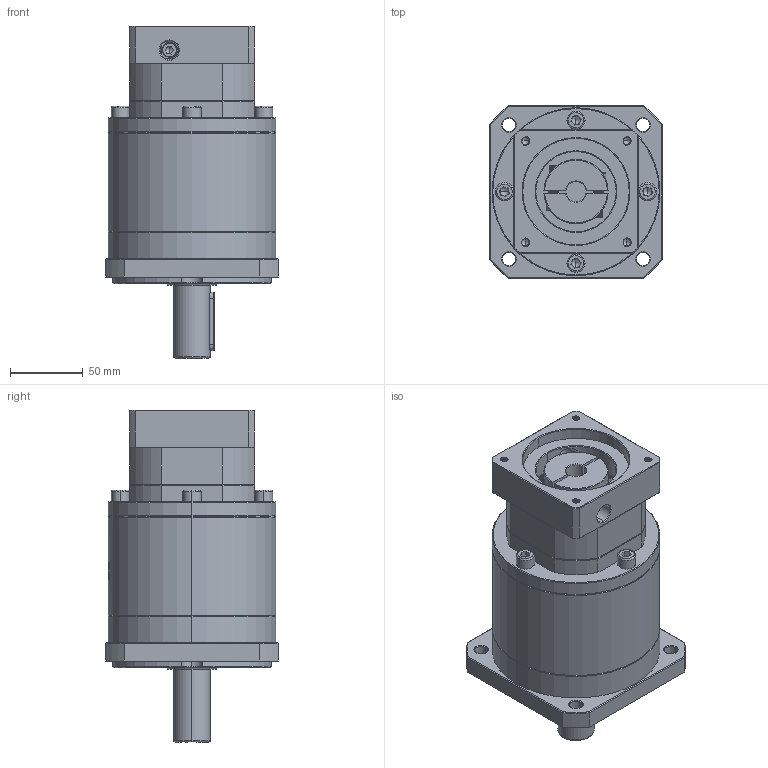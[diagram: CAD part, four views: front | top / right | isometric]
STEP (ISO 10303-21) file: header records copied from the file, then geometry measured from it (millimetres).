
FILE_DESCRIPTION (( 'STEP AP214' ), '1' );
FILE_NAME ('ZF120A-D25-L3-P2-14-73-69.6X69.6-M6.step', '2023-08-27T05:58:06', ( '' ), ( '' ), 'SwSTEP 2.0', 'SolidWorks 2016', '' );
FILE_SCHEMA (( 'AUTOMOTIVE_DESIGN' ));
Length unit declared in the file: millimetre
Products named in the file (1): ZF120A-D25-L3-P2-14-73-69.6X69.6-M6
Bounding box: 118 x 118 x 227.5 mm (x, y, z)
Volume: 1571706.6 mm3; surface area: 138159.5 mm2
Topology: 5 solids, 6 shells, 2212 faces, 5883 edges, 3770 vertices
Faces by surface type: plane 1060, bspline 419, cylinder 402, cone 316, torus 15
Entity records: 121094 total; most frequent: CARTESIAN_POINT 47197, ORIENTED_EDGE 11706, DIRECTION 8450, EDGE_CURVE 5853, VERTEX_POINT 3770, VECTOR 3092, LINE 3092, AXIS2_PLACEMENT_3D 2679
